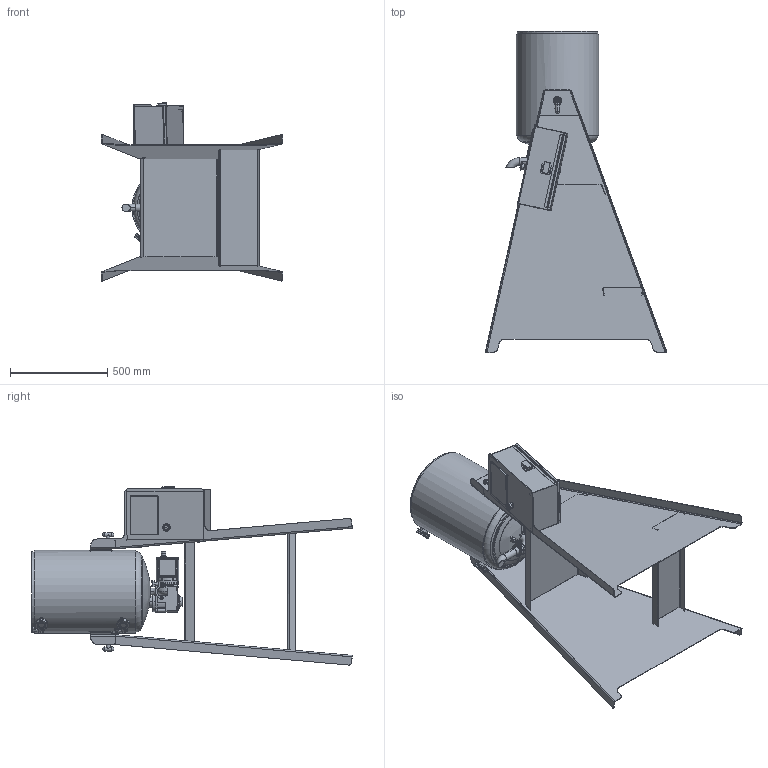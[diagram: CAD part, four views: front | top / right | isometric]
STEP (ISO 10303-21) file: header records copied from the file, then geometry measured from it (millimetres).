
FILE_DESCRIPTION (( 'STEP AP203' ), '1' );
FILE_NAME ('MM20_defeature.STEP', '2025-09-25T14:39:38', ( '' ), ( '' ), 'SwSTEP 2.0', 'SolidWorks 2023', '' );
FILE_SCHEMA (( 'CONFIG_CONTROL_DESIGN' ));
Products named in the file (1): MM20_defeature
Bounding box: 928.83 x 1646.55 x 913.72 mm (x, y, z)
Surface area: 8067938.4 mm2 (no closed solid volume)
Topology: 0 solids, 72 shells, 6641 faces, 18936 edges, 12339 vertices
Faces by surface type: plane 3927, cylinder 1648, bspline 505, cone 342, sphere 116, torus 103
Entity records: 297225 total; most frequent: CARTESIAN_POINT 129655, ORIENTED_EDGE 36310, DIRECTION 32288, EDGE_CURVE 18880, VERTEX_POINT 12325, VECTOR 12186, LINE 12186, AXIS2_PLACEMENT_3D 10051
